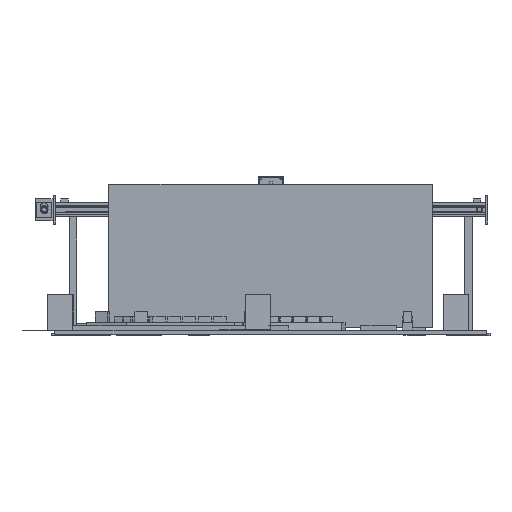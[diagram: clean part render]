
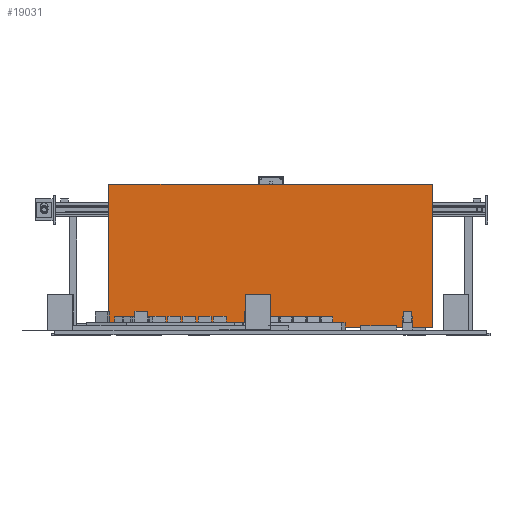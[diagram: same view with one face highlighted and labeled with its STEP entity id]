
A CAD part, top view. The second image highlights one B-rep face of the part: STEP entity #19031.
In plain terms, the highlighted planar face has unit normal (0, 0, 1).
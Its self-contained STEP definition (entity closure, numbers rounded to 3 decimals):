
#18842 = VERTEX_POINT('',#18843);
#18843 = CARTESIAN_POINT('',(-450.,-200.,3.));
#18850 = PLANE('',#18851);
#18851 = AXIS2_PLACEMENT_3D('',#18852,#18853,#18854);
#18852 = CARTESIAN_POINT('',(-450.,-200.,-3.));
#18853 = DIRECTION('',(1.,0.,-0.));
#18854 = DIRECTION('',(0.,0.,1.));
#18862 = PLANE('',#18863);
#18863 = AXIS2_PLACEMENT_3D('',#18864,#18865,#18866);
#18864 = CARTESIAN_POINT('',(-450.,-200.,-3.));
#18865 = DIRECTION('',(-0.,1.,0.));
#18866 = DIRECTION('',(0.,0.,1.));
#18903 = VERTEX_POINT('',#18904);
#18904 = CARTESIAN_POINT('',(-450.,200.,3.));
#18918 = PLANE('',#18919);
#18919 = AXIS2_PLACEMENT_3D('',#18920,#18921,#18922);
#18920 = CARTESIAN_POINT('',(-450.,200.,-3.));
#18921 = DIRECTION('',(-0.,1.,0.));
#18922 = DIRECTION('',(0.,0.,1.));
#18930 = EDGE_CURVE('',#18842,#18903,#18931,.T.);
#18931 = SURFACE_CURVE('',#18932,(#18936,#18943),.PCURVE_S1.);
#18932 = LINE('',#18933,#18934);
#18933 = CARTESIAN_POINT('',(-450.,-200.,3.));
#18934 = VECTOR('',#18935,1.);
#18935 = DIRECTION('',(-0.,1.,0.));
#18936 = PCURVE('',#18850,#18937);
#18937 = DEFINITIONAL_REPRESENTATION('',(#18938),#18942);
#18938 = LINE('',#18939,#18940);
#18939 = CARTESIAN_POINT('',(6.,0.));
#18940 = VECTOR('',#18941,1.);
#18941 = DIRECTION('',(0.,-1.));
#18942 = ( GEOMETRIC_REPRESENTATION_CONTEXT(2) 
PARAMETRIC_REPRESENTATION_CONTEXT() REPRESENTATION_CONTEXT('2D SPACE',''
  ) );
#18943 = PCURVE('',#18944,#18949);
#18944 = PLANE('',#18945);
#18945 = AXIS2_PLACEMENT_3D('',#18946,#18947,#18948);
#18946 = CARTESIAN_POINT('',(-450.,-200.,3.));
#18947 = DIRECTION('',(0.,0.,1.));
#18948 = DIRECTION('',(1.,0.,-0.));
#18949 = DEFINITIONAL_REPRESENTATION('',(#18950),#18954);
#18950 = LINE('',#18951,#18952);
#18951 = CARTESIAN_POINT('',(0.,0.));
#18952 = VECTOR('',#18953,1.);
#18953 = DIRECTION('',(0.,1.));
#18954 = ( GEOMETRIC_REPRESENTATION_CONTEXT(2) 
PARAMETRIC_REPRESENTATION_CONTEXT() REPRESENTATION_CONTEXT('2D SPACE',''
  ) );
#18983 = EDGE_CURVE('',#18842,#18984,#18986,.T.);
#18984 = VERTEX_POINT('',#18985);
#18985 = CARTESIAN_POINT('',(-430.,-200.,3.));
#18986 = SURFACE_CURVE('',#18987,(#18991,#18998),.PCURVE_S1.);
#18987 = LINE('',#18988,#18989);
#18988 = CARTESIAN_POINT('',(-450.,-200.,3.));
#18989 = VECTOR('',#18990,1.);
#18990 = DIRECTION('',(1.,0.,-0.));
#18991 = PCURVE('',#18862,#18992);
#18992 = DEFINITIONAL_REPRESENTATION('',(#18993),#18997);
#18993 = LINE('',#18994,#18995);
#18994 = CARTESIAN_POINT('',(6.,0.));
#18995 = VECTOR('',#18996,1.);
#18996 = DIRECTION('',(0.,1.));
#18997 = ( GEOMETRIC_REPRESENTATION_CONTEXT(2) 
PARAMETRIC_REPRESENTATION_CONTEXT() REPRESENTATION_CONTEXT('2D SPACE',''
  ) );
#18998 = PCURVE('',#18944,#18999);
#18999 = DEFINITIONAL_REPRESENTATION('',(#19000),#19004);
#19000 = LINE('',#19001,#19002);
#19001 = CARTESIAN_POINT('',(0.,0.));
#19002 = VECTOR('',#19003,1.);
#19003 = DIRECTION('',(1.,0.));
#19004 = ( GEOMETRIC_REPRESENTATION_CONTEXT(2) 
PARAMETRIC_REPRESENTATION_CONTEXT() REPRESENTATION_CONTEXT('2D SPACE',''
  ) );
#19031 = ADVANCED_FACE('',(#19032),#18944,.T.);
#19032 = FACE_BOUND('',#19033,.T.);
#19033 = EDGE_LOOP('',(#19034,#19035,#19036,#19064,#19092,#19120,#19148,
    #19176));
#19034 = ORIENTED_EDGE('',*,*,#18930,.F.);
#19035 = ORIENTED_EDGE('',*,*,#18983,.T.);
#19036 = ORIENTED_EDGE('',*,*,#19037,.T.);
#19037 = EDGE_CURVE('',#18984,#19038,#19040,.T.);
#19038 = VERTEX_POINT('',#19039);
#19039 = CARTESIAN_POINT('',(-370.,-200.,3.));
#19040 = SURFACE_CURVE('',#19041,(#19045,#19052),.PCURVE_S1.);
#19041 = LINE('',#19042,#19043);
#19042 = CARTESIAN_POINT('',(-450.,-200.,3.));
#19043 = VECTOR('',#19044,1.);
#19044 = DIRECTION('',(1.,0.,-0.));
#19045 = PCURVE('',#18944,#19046);
#19046 = DEFINITIONAL_REPRESENTATION('',(#19047),#19051);
#19047 = LINE('',#19048,#19049);
#19048 = CARTESIAN_POINT('',(0.,0.));
#19049 = VECTOR('',#19050,1.);
#19050 = DIRECTION('',(1.,0.));
#19051 = ( GEOMETRIC_REPRESENTATION_CONTEXT(2) 
PARAMETRIC_REPRESENTATION_CONTEXT() REPRESENTATION_CONTEXT('2D SPACE',''
  ) );
#19052 = PCURVE('',#19053,#19058);
#19053 = PLANE('',#19054);
#19054 = AXIS2_PLACEMENT_3D('',#19055,#19056,#19057);
#19055 = CARTESIAN_POINT('',(-430.,-200.,-60.));
#19056 = DIRECTION('',(-0.,1.,0.));
#19057 = DIRECTION('',(0.,0.,1.));
#19058 = DEFINITIONAL_REPRESENTATION('',(#19059),#19063);
#19059 = LINE('',#19060,#19061);
#19060 = CARTESIAN_POINT('',(63.,-20.));
#19061 = VECTOR('',#19062,1.);
#19062 = DIRECTION('',(0.,1.));
#19063 = ( GEOMETRIC_REPRESENTATION_CONTEXT(2) 
PARAMETRIC_REPRESENTATION_CONTEXT() REPRESENTATION_CONTEXT('2D SPACE',''
  ) );
#19064 = ORIENTED_EDGE('',*,*,#19065,.T.);
#19065 = EDGE_CURVE('',#19038,#19066,#19068,.T.);
#19066 = VERTEX_POINT('',#19067);
#19067 = CARTESIAN_POINT('',(370.,-200.,3.));
#19068 = SURFACE_CURVE('',#19069,(#19073,#19080),.PCURVE_S1.);
#19069 = LINE('',#19070,#19071);
#19070 = CARTESIAN_POINT('',(-450.,-200.,3.));
#19071 = VECTOR('',#19072,1.);
#19072 = DIRECTION('',(1.,0.,-0.));
#19073 = PCURVE('',#18944,#19074);
#19074 = DEFINITIONAL_REPRESENTATION('',(#19075),#19079);
#19075 = LINE('',#19076,#19077);
#19076 = CARTESIAN_POINT('',(0.,0.));
#19077 = VECTOR('',#19078,1.);
#19078 = DIRECTION('',(1.,0.));
#19079 = ( GEOMETRIC_REPRESENTATION_CONTEXT(2) 
PARAMETRIC_REPRESENTATION_CONTEXT() REPRESENTATION_CONTEXT('2D SPACE',''
  ) );
#19080 = PCURVE('',#19081,#19086);
#19081 = PLANE('',#19082);
#19082 = AXIS2_PLACEMENT_3D('',#19083,#19084,#19085);
#19083 = CARTESIAN_POINT('',(-450.,-200.,-3.));
#19084 = DIRECTION('',(-0.,1.,0.));
#19085 = DIRECTION('',(0.,0.,1.));
#19086 = DEFINITIONAL_REPRESENTATION('',(#19087),#19091);
#19087 = LINE('',#19088,#19089);
#19088 = CARTESIAN_POINT('',(6.,0.));
#19089 = VECTOR('',#19090,1.);
#19090 = DIRECTION('',(0.,1.));
#19091 = ( GEOMETRIC_REPRESENTATION_CONTEXT(2) 
PARAMETRIC_REPRESENTATION_CONTEXT() REPRESENTATION_CONTEXT('2D SPACE',''
  ) );
#19092 = ORIENTED_EDGE('',*,*,#19093,.T.);
#19093 = EDGE_CURVE('',#19066,#19094,#19096,.T.);
#19094 = VERTEX_POINT('',#19095);
#19095 = CARTESIAN_POINT('',(430.,-200.,3.));
#19096 = SURFACE_CURVE('',#19097,(#19101,#19108),.PCURVE_S1.);
#19097 = LINE('',#19098,#19099);
#19098 = CARTESIAN_POINT('',(-450.,-200.,3.));
#19099 = VECTOR('',#19100,1.);
#19100 = DIRECTION('',(1.,0.,-0.));
#19101 = PCURVE('',#18944,#19102);
#19102 = DEFINITIONAL_REPRESENTATION('',(#19103),#19107);
#19103 = LINE('',#19104,#19105);
#19104 = CARTESIAN_POINT('',(0.,0.));
#19105 = VECTOR('',#19106,1.);
#19106 = DIRECTION('',(1.,0.));
#19107 = ( GEOMETRIC_REPRESENTATION_CONTEXT(2) 
PARAMETRIC_REPRESENTATION_CONTEXT() REPRESENTATION_CONTEXT('2D SPACE',''
  ) );
#19108 = PCURVE('',#19109,#19114);
#19109 = PLANE('',#19110);
#19110 = AXIS2_PLACEMENT_3D('',#19111,#19112,#19113);
#19111 = CARTESIAN_POINT('',(370.,-200.,-60.));
#19112 = DIRECTION('',(-0.,1.,0.));
#19113 = DIRECTION('',(0.,0.,1.));
#19114 = DEFINITIONAL_REPRESENTATION('',(#19115),#19119);
#19115 = LINE('',#19116,#19117);
#19116 = CARTESIAN_POINT('',(63.,-820.));
#19117 = VECTOR('',#19118,1.);
#19118 = DIRECTION('',(0.,1.));
#19119 = ( GEOMETRIC_REPRESENTATION_CONTEXT(2) 
PARAMETRIC_REPRESENTATION_CONTEXT() REPRESENTATION_CONTEXT('2D SPACE',''
  ) );
#19120 = ORIENTED_EDGE('',*,*,#19121,.T.);
#19121 = EDGE_CURVE('',#19094,#19122,#19124,.T.);
#19122 = VERTEX_POINT('',#19123);
#19123 = CARTESIAN_POINT('',(450.,-200.,3.));
#19124 = SURFACE_CURVE('',#19125,(#19129,#19136),.PCURVE_S1.);
#19125 = LINE('',#19126,#19127);
#19126 = CARTESIAN_POINT('',(-450.,-200.,3.));
#19127 = VECTOR('',#19128,1.);
#19128 = DIRECTION('',(1.,0.,-0.));
#19129 = PCURVE('',#18944,#19130);
#19130 = DEFINITIONAL_REPRESENTATION('',(#19131),#19135);
#19131 = LINE('',#19132,#19133);
#19132 = CARTESIAN_POINT('',(0.,0.));
#19133 = VECTOR('',#19134,1.);
#19134 = DIRECTION('',(1.,0.));
#19135 = ( GEOMETRIC_REPRESENTATION_CONTEXT(2) 
PARAMETRIC_REPRESENTATION_CONTEXT() REPRESENTATION_CONTEXT('2D SPACE',''
  ) );
#19136 = PCURVE('',#19137,#19142);
#19137 = PLANE('',#19138);
#19138 = AXIS2_PLACEMENT_3D('',#19139,#19140,#19141);
#19139 = CARTESIAN_POINT('',(-450.,-200.,-3.));
#19140 = DIRECTION('',(-0.,1.,0.));
#19141 = DIRECTION('',(0.,0.,1.));
#19142 = DEFINITIONAL_REPRESENTATION('',(#19143),#19147);
#19143 = LINE('',#19144,#19145);
#19144 = CARTESIAN_POINT('',(6.,0.));
#19145 = VECTOR('',#19146,1.);
#19146 = DIRECTION('',(0.,1.));
#19147 = ( GEOMETRIC_REPRESENTATION_CONTEXT(2) 
PARAMETRIC_REPRESENTATION_CONTEXT() REPRESENTATION_CONTEXT('2D SPACE',''
  ) );
#19148 = ORIENTED_EDGE('',*,*,#19149,.T.);
#19149 = EDGE_CURVE('',#19122,#19150,#19152,.T.);
#19150 = VERTEX_POINT('',#19151);
#19151 = CARTESIAN_POINT('',(450.,200.,3.));
#19152 = SURFACE_CURVE('',#19153,(#19157,#19164),.PCURVE_S1.);
#19153 = LINE('',#19154,#19155);
#19154 = CARTESIAN_POINT('',(450.,-200.,3.));
#19155 = VECTOR('',#19156,1.);
#19156 = DIRECTION('',(-0.,1.,0.));
#19157 = PCURVE('',#18944,#19158);
#19158 = DEFINITIONAL_REPRESENTATION('',(#19159),#19163);
#19159 = LINE('',#19160,#19161);
#19160 = CARTESIAN_POINT('',(900.,0.));
#19161 = VECTOR('',#19162,1.);
#19162 = DIRECTION('',(0.,1.));
#19163 = ( GEOMETRIC_REPRESENTATION_CONTEXT(2) 
PARAMETRIC_REPRESENTATION_CONTEXT() REPRESENTATION_CONTEXT('2D SPACE',''
  ) );
#19164 = PCURVE('',#19165,#19170);
#19165 = PLANE('',#19166);
#19166 = AXIS2_PLACEMENT_3D('',#19167,#19168,#19169);
#19167 = CARTESIAN_POINT('',(450.,-200.,-3.));
#19168 = DIRECTION('',(1.,0.,-0.));
#19169 = DIRECTION('',(0.,0.,1.));
#19170 = DEFINITIONAL_REPRESENTATION('',(#19171),#19175);
#19171 = LINE('',#19172,#19173);
#19172 = CARTESIAN_POINT('',(6.,0.));
#19173 = VECTOR('',#19174,1.);
#19174 = DIRECTION('',(0.,-1.));
#19175 = ( GEOMETRIC_REPRESENTATION_CONTEXT(2) 
PARAMETRIC_REPRESENTATION_CONTEXT() REPRESENTATION_CONTEXT('2D SPACE',''
  ) );
#19176 = ORIENTED_EDGE('',*,*,#19177,.F.);
#19177 = EDGE_CURVE('',#18903,#19150,#19178,.T.);
#19178 = SURFACE_CURVE('',#19179,(#19183,#19190),.PCURVE_S1.);
#19179 = LINE('',#19180,#19181);
#19180 = CARTESIAN_POINT('',(-450.,200.,3.));
#19181 = VECTOR('',#19182,1.);
#19182 = DIRECTION('',(1.,0.,-0.));
#19183 = PCURVE('',#18944,#19184);
#19184 = DEFINITIONAL_REPRESENTATION('',(#19185),#19189);
#19185 = LINE('',#19186,#19187);
#19186 = CARTESIAN_POINT('',(0.,400.));
#19187 = VECTOR('',#19188,1.);
#19188 = DIRECTION('',(1.,0.));
#19189 = ( GEOMETRIC_REPRESENTATION_CONTEXT(2) 
PARAMETRIC_REPRESENTATION_CONTEXT() REPRESENTATION_CONTEXT('2D SPACE',''
  ) );
#19190 = PCURVE('',#18918,#19191);
#19191 = DEFINITIONAL_REPRESENTATION('',(#19192),#19196);
#19192 = LINE('',#19193,#19194);
#19193 = CARTESIAN_POINT('',(6.,0.));
#19194 = VECTOR('',#19195,1.);
#19195 = DIRECTION('',(0.,1.));
#19196 = ( GEOMETRIC_REPRESENTATION_CONTEXT(2) 
PARAMETRIC_REPRESENTATION_CONTEXT() REPRESENTATION_CONTEXT('2D SPACE',''
  ) );
